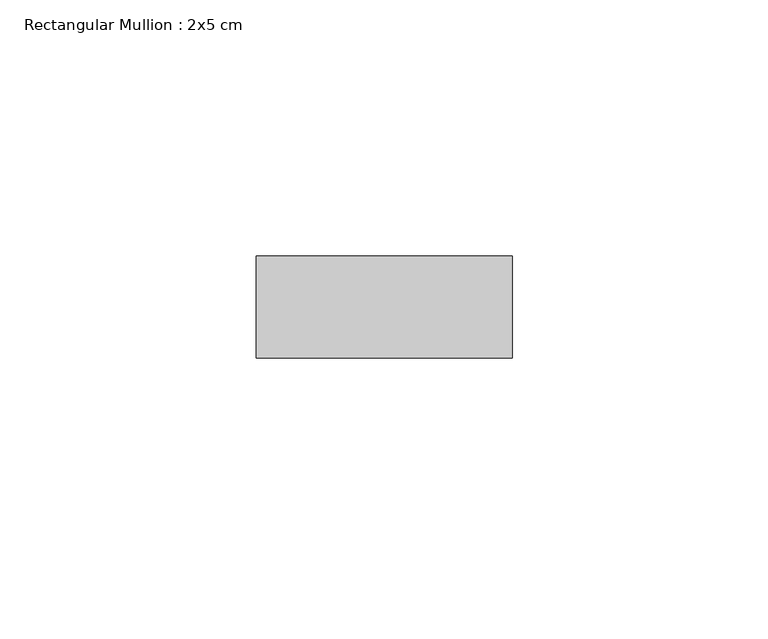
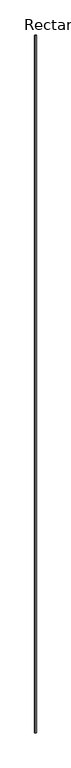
"""IFC4 building model written with IfcOpenShell, lengths in millimetres: member geometry, Rectangular Mullion : 2x5 cm."""

from ifc_helpers import new_model, si_unit, frame, origin, place, context, project, spatial, polyline, outline, extrude, source, transform, mapped, element, save


def rectangular_mullion_2x5_cm_995ba158(model_context):
    return source(origin(), model_context, "Body", "SweptSolid", [
        extrude(outline(polyline([(50.0, 20.0), (50.0, 0.0), (0.0, 0.0), (0.0, 20.0), (50.0, 20.0)])), frame((0.0, 0.0, -27937.5535345), z_axis=(0.0, 0.0, 1.0), x_axis=(1.0, 0.0, 0.0)), (0.0, 0.0, 1.0), 27937.5535345),
    ])


if __name__ == "__main__":
    model = new_model("IFC4")
    model_context = context("Model", 3, world=origin())
    ifc_project = project(units=[si_unit("LENGTHUNIT", "METRE", prefix="MILLI")], contexts=[model_context])
    site = spatial("IfcSite", under=ifc_project)
    building = spatial("IfcBuilding", under=site)
    placement = place(None, origin())
    rectangular_mullion_2x5_cm_shape = rectangular_mullion_2x5_cm_995ba158(model_context)
    element("IfcMember", 1, ObjectType="Rectangular Mullion : 2x5 cm", at=placement, inside=building, context=model_context, shape_type="MappedRepresentation", body=[
        mapped(rectangular_mullion_2x5_cm_shape, transform((0.0, 0.0, 0.0), x_axis=(1.0, 0.0, 0.0), y_axis=(0.0, 1.0, 0.0), z_axis=(0.0, 0.0, 1.0))),
    ])
    save(model, "model.ifc")
